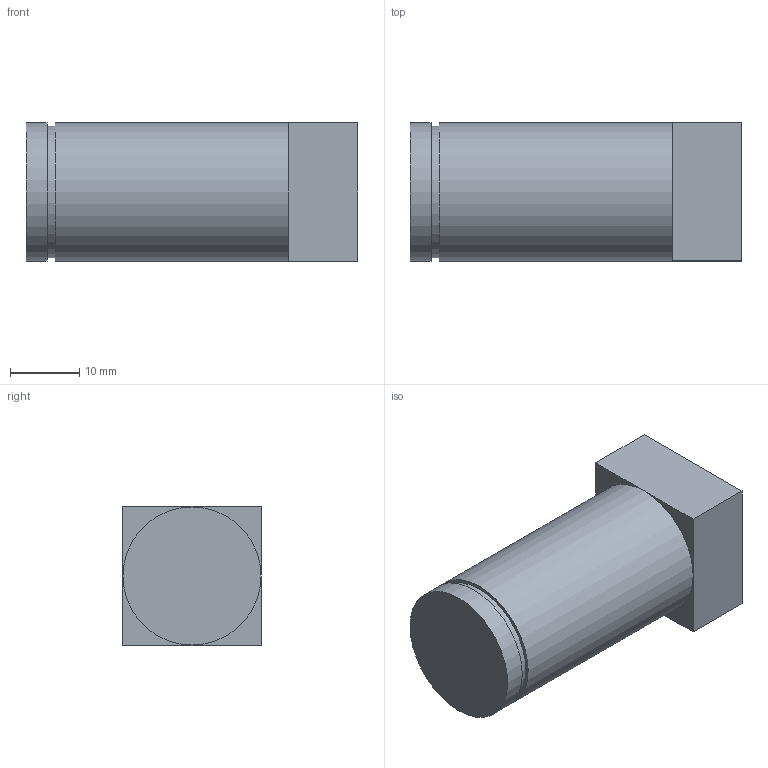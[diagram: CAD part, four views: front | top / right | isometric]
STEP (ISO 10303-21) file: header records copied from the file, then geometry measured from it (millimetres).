
FILE_DESCRIPTION(/* description */ (''),/* implementation_level */ '2;1');
FILE_NAME(/* name */ 'D:/pobrane/pwr/sem 6/konkurs kompozytywni/step/oś_koło.step',/* time_stamp */ '2021-05-10T22:30:36+02:00',/* author */ (''),/* organization */ (''),/* preprocessor_version */ 'ST-DEVELOPER v18.1',/* originating_system */ 'Autodesk Translation Framework v10.6.0.1341',/* authorisation */ '');
FILE_SCHEMA (('AUTOMOTIVE_DESIGN { 1 0 10303 214 3 1 1 }'));
Length unit declared in the file: millimetre
Products named in the file (1): oska
Bounding box: 48 x 20 x 20 mm (x, y, z)
Volume: 15901.3 mm3; surface area: 4045.1 mm2
Topology: 1 solids, 1 shells, 15 faces, 28 edges, 17 vertices
Faces by surface type: plane 12, cylinder 3
Full cylindrical faces by diameter (mm): 19 x1, 20 x2
Entity records: 411 total; most frequent: DIRECTION 69, CARTESIAN_POINT 61, ORIENTED_EDGE 56, EDGE_CURVE 28, AXIS2_PLACEMENT_3D 25, LINE 19, VECTOR 19, EDGE_LOOP 17
